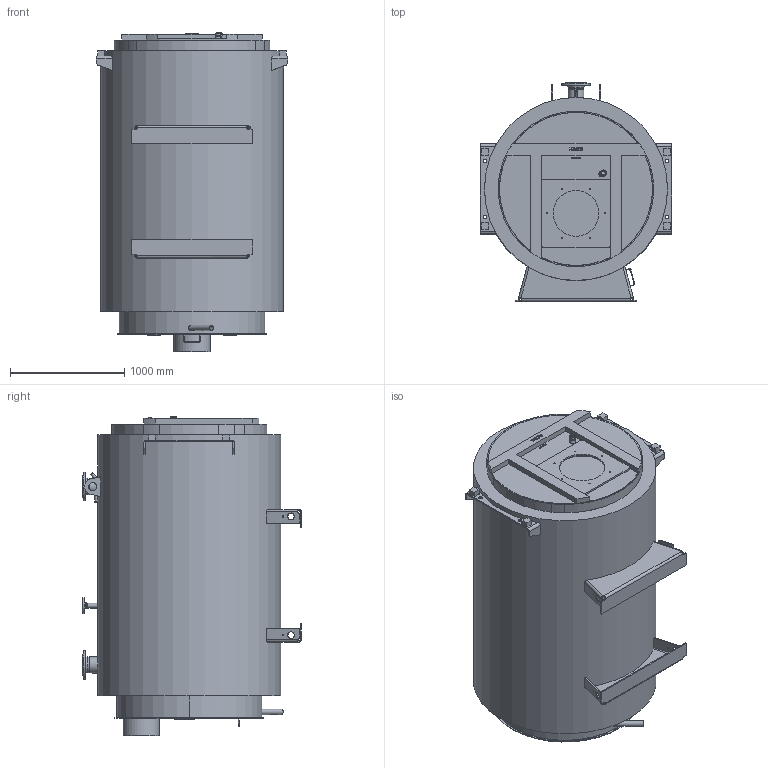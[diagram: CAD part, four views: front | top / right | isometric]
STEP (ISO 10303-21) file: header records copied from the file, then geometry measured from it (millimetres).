
FILE_DESCRIPTION(('TFLEX Exchange Step'),'2;1');
FILE_NAME('M22A023_7632982_T001.stp', '2024-08-09T14:58:51+03:00',('kort'),('Unknown organisation'),'TFLEX Exchange 2024.2','T-FLEX CAD','Unknown authorisation');
FILE_SCHEMA( ('AP242_MANAGED_MODEL_BASED_3D_ENGINEERING_MIM_LF {1 0 10303 442 1 1 4 }') );
Length unit declared in the file: millimetre
Products named in the file (1): Assembly
Bounding box: 1670 x 1910 x 2794.7 mm (x, y, z)
Volume: 5021894976.7 mm3; surface area: 55145755.4 mm2
Topology: 75 solids, 75 shells, 959 faces, 2460 edges, 1667 vertices
Faces by surface type: plane 467, cylinder 289, bspline 115, cone 63, torus 19, sphere 6
Full cylindrical faces by diameter (mm): 1 x16, 2.2 x4, 3.2 x4, 3.3 x4, 4 x4, 6.5 x4, 10 x9, 10.11 x6, 11.45 x1, 12 x12, 13 x4, 14.63 x6, 18 x20, 18.63 x1, 18.9 x1, 22 x6, 26.9 x1, 32 x4, 34.4 x1, 35 x3, 37.2 x1, 40 x2, 41.1 x1, 41.45 x1, 42.4 x1, 44.8 x1, 45 x4, 47.8 x1, 48 x1, 48.3 x1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
Entity records: 63869 total; most frequent: CARTESIAN_POINT 39239, ORIENTED_EDGE 4872, DIRECTION 4601, EDGE_CURVE 2436, AXIS2_PLACEMENT_3D 1691, VERTEX_POINT 1667, VECTOR 1219, LINE 1219
